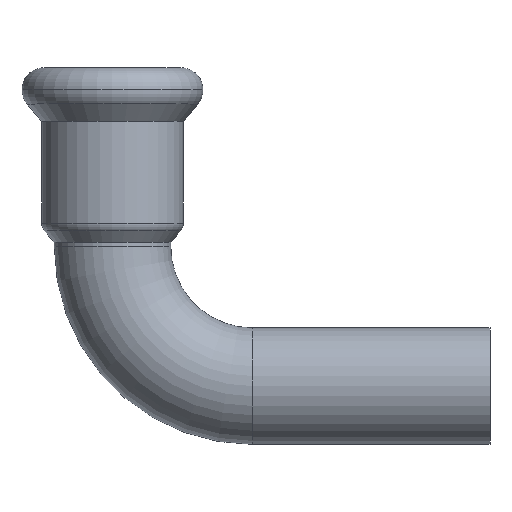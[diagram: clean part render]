
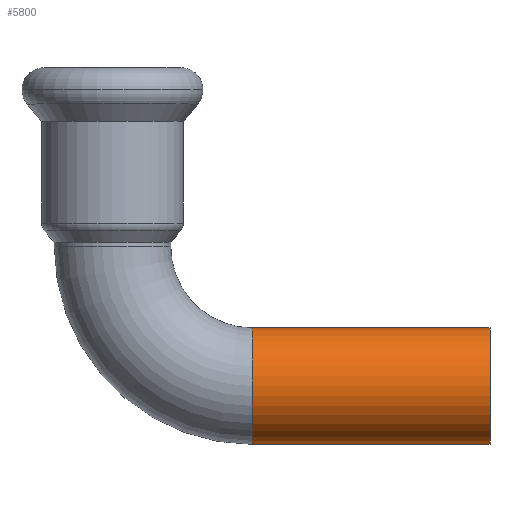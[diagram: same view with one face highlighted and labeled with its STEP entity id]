
A CAD part, top view. The second image highlights one B-rep face of the part: STEP entity #5800.
In plain terms, the highlighted cylindrical face has radius 7.5 mm (diameter 15 mm), a partial arc.
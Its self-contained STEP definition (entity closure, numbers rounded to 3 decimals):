
#560=CARTESIAN_POINT('',(-78.193,20.409,0.));
#570=DIRECTION('',(1.,0.,0.));
#580=DIRECTION('',(0.,-1.,0.));
#590=AXIS2_PLACEMENT_3D('',#560,#570,#580);
#600=CIRCLE('',#590,7.5);
#630=CARTESIAN_POINT('',(-78.193,27.909,
0.));
#640=VERTEX_POINT('',#630);
#900=CARTESIAN_POINT('',(-78.193,12.909,
0.));
#910=VERTEX_POINT('',#900);
#3990=CARTESIAN_POINT('',(-78.193,20.409,0.));
#4000=DIRECTION('',(-1.,0.,0.));
#4010=DIRECTION('',(0.,-1.,0.));
#4020=AXIS2_PLACEMENT_3D('',#3990,#4000,#4010);
#4030=CYLINDRICAL_SURFACE('',#4020,7.5);
#4040=CARTESIAN_POINT('',(-78.193,27.909,
0.));
#4050=DIRECTION('',(-1.,0.,0.));
#4060=VECTOR('',#4050,1.);
#4070=LINE('',#4040,#4060);
#4080=CARTESIAN_POINT('',(-47.593,27.909,
0.));
#4090=VERTEX_POINT('',#4080);
#4100=EDGE_CURVE('',#4090,#640,#4070,.T.);
#4140=CARTESIAN_POINT('',(-78.193,12.909,0.));
#4150=DIRECTION('',(-1.,0.,0.));
#4160=VECTOR('',#4150,1.);
#4170=LINE('',#4140,#4160);
#4180=CARTESIAN_POINT('',(-47.593,12.909,0.));
#4190=VERTEX_POINT('',#4180);
#4200=EDGE_CURVE('',#4190,#910,#4170,.T.);
#4220=CARTESIAN_POINT('',(-47.593,20.409,0.));
#4230=DIRECTION('',(-1.,0.,0.));
#4240=DIRECTION('',(0.,-1.,0.));
#4250=AXIS2_PLACEMENT_3D('',#4220,#4230,#4240);
#4260=CIRCLE('',#4250,7.5);
#4720=EDGE_CURVE('',#4190,#4090,#4260,.T.);
#5730=EDGE_CURVE('',#640,#910,#600,.T.);
#5740=ORIENTED_EDGE('',*,*,#5730,.T.);
#5750=ORIENTED_EDGE('',*,*,#4100,.T.);
#5760=ORIENTED_EDGE('',*,*,#4720,.T.);
#5770=ORIENTED_EDGE('',*,*,#4200,.F.);
#5780=EDGE_LOOP('',(#5770,#5760,#5750,#5740));
#5790=FACE_OUTER_BOUND('',#5780,.T.);
#5800=ADVANCED_FACE('',(#5790),#4030,.T.);
